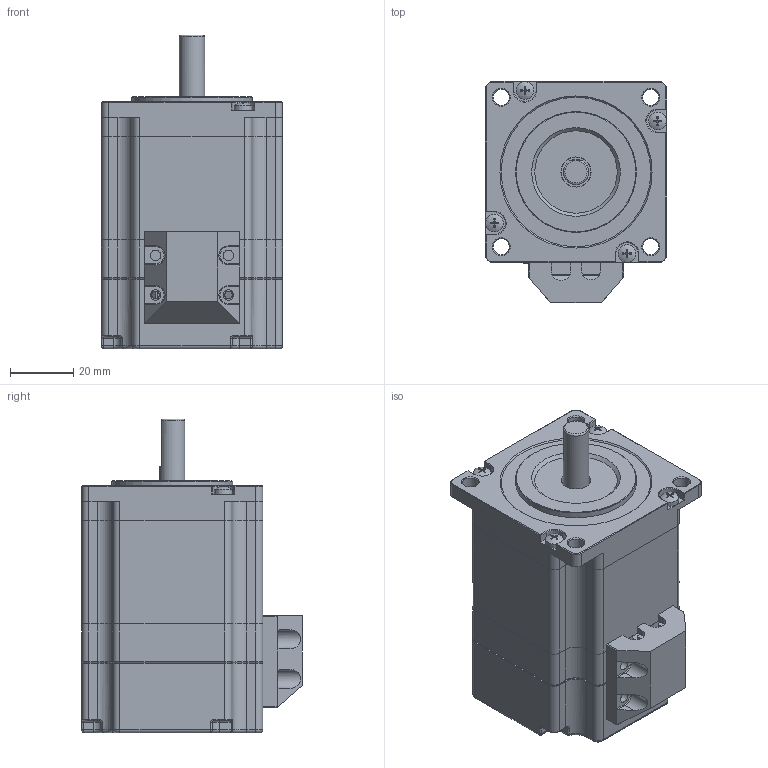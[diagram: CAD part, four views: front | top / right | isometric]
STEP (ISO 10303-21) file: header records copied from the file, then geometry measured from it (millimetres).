
FILE_DESCRIPTION (( 'STEP AP203' ), '1' );
FILE_NAME ('YK257EC56E1.STEP', '2018-10-09T01:22:07', ( '' ), ( '' ), 'SwSTEP 2.0', 'SolidWorks 2014', '' );
FILE_SCHEMA (( 'CONFIG_CONTROL_DESIGN' ));
Length unit declared in the file: millimetre
Products named in the file (18): YK257EC 綴裔; YK257萇儂晤鎢ん欶; YK257EC 坋趼羞攫芛蹟隊; 257萇儂萇擢揤啣; YK257EC ヶ裔; YK257EC 粣; YK257EC56E1; YK257EC 隅赽
Assembly tree (10 placements, depth 2):
  YK257萇儂晤鎢ん欶
  YK257EC 坋趼羞攫芛蹟隊
  YK257EC 粣
  YK257EC 坋趼羞攫芛蹟隊
  YK257EC 坋趼羞攫芛蹟隊
Bounding box: 57.15 x 69.65 x 99 mm (x, y, z)
Volume: 128397.5 mm3; surface area: 64153.2 mm2
Topology: 10 solids, 10 shells, 1245 faces, 2781 edges, 1566 vertices
Faces by surface type: cone 652, plane 288, cylinder 232, torus 53, bspline 16, sphere 4
Full cylindrical faces by diameter (mm): 2.5 x6, 2.598 x4, 3.2 x12, 3.3 x4, 5 x4, 5.6 x4, 8 x2, 9.5 x2, 10 x1, 22 x2, 26 x1, 34.78 x1, 34.8 x2, 35.4 x2, 38.1 x1, 50 x1, 51.5 x1
Entity records: 21904 total; most frequent: CARTESIAN_POINT 4251, DIRECTION 3488, ORIENTED_EDGE 2990, EDGE_CURVE 1495, AXIS2_PLACEMENT_3D 1367, VERTEX_POINT 1023, EDGE_LOOP 1006, FACE_OUTER_BOUND 767
